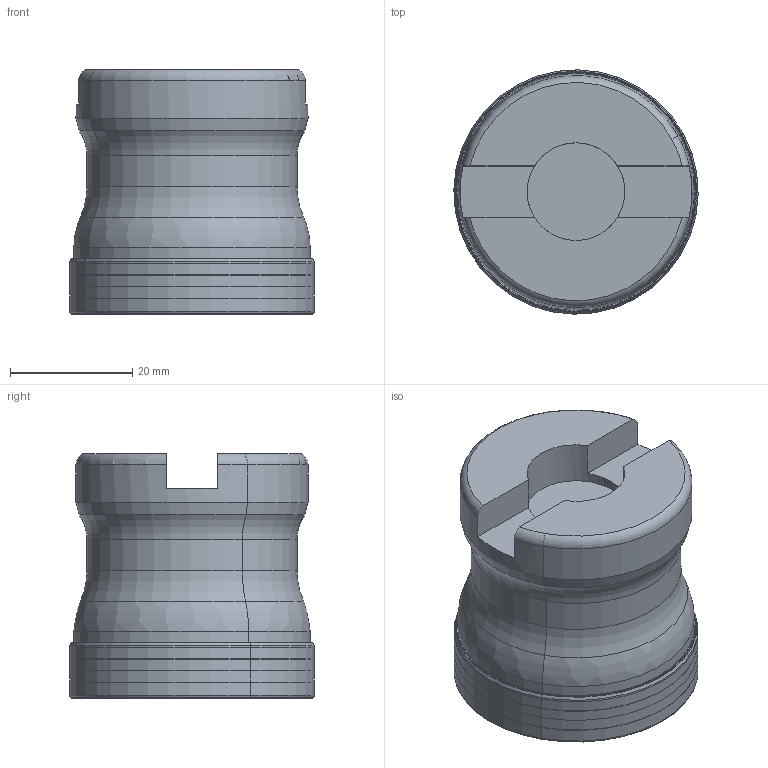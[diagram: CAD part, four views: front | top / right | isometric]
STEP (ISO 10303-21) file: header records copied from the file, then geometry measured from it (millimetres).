
FILE_DESCRIPTION(('CATIA V5 STEP','CAx-IF Rec.Pracs.--- Model Styling and Organization---1.2---2011-12-15'),'2;1');
FILE_NAME('N:\data\isr\design\special1\users\EVA_U\Requests\NPA\3106662_H690 F90AX D040-6-16-10\H690 F90AX D040-6-16-10.stp','2015-12-08T15:47:07+00:00',('none'),('none'),'CATIA Version 5 Release 21 SP 5 (IN-10)','CATIA V5 STEP AP214','none');
FILE_SCHEMA(('AUTOMOTIVE_DESIGN { 1 0 10303 214 1 1 1 1 }'));
Length unit declared in the file: millimetre
Products named in the file (1): H690 F90AX D040-6-16-10
Bounding box: 39.99 x 39.99 x 40.01 mm (x, y, z)
Volume: 43866.2 mm3; surface area: 10221.1 mm2
Topology: 2 solids, 2 shells, 105 faces, 220 edges, 118 vertices
Faces by surface type: torus 52, cylinder 18, cone 16, plane 11, revolution 8
Entity records: 2616 total; most frequent: CARTESIAN_POINT 604, ORIENTED_EDGE 440, DIRECTION 322, EDGE_CURVE 220, AXIS2_PLACEMENT_3D 212, CIRCLE 158, VERTEX_POINT 118, EDGE_LOOP 106
